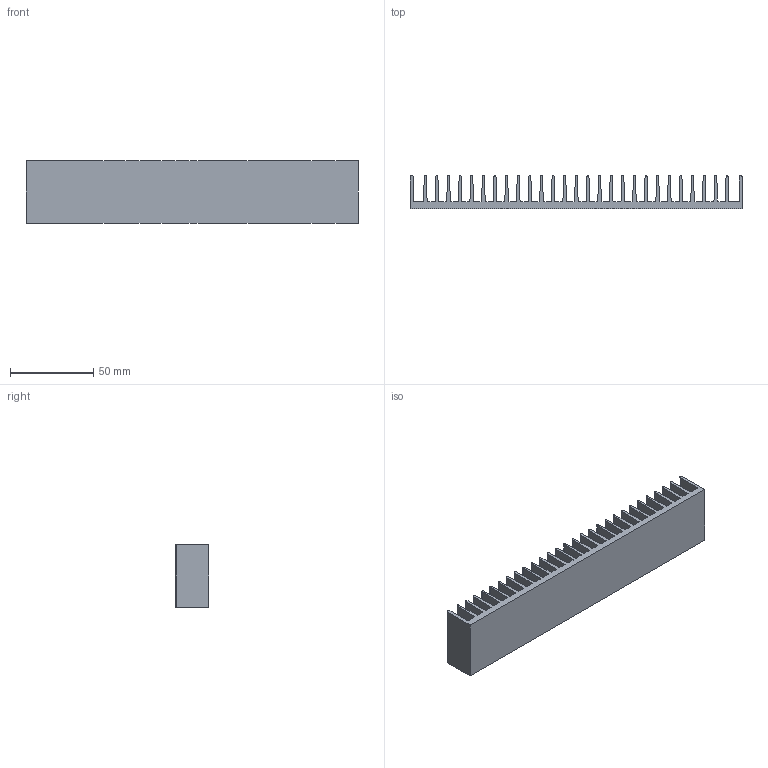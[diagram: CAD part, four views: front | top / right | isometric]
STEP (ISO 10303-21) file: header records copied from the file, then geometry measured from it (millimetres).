
FILE_DESCRIPTION (( 'STEP AP214' ), '1' );
FILE_NAME ('PR103.STEP', '2004-05-03T08:13:41', ( '' ), ( '' ), 'SwSTEP 2.0', 'SolidWorks 2002349', '' );
FILE_SCHEMA (( 'AUTOMOTIVE_DESIGN' ));
Length unit declared in the file: millimetre
Products named in the file (1): PR103
Bounding box: 200 x 20.1 x 37.5 mm (x, y, z)
Volume: 59539.5 mm3; surface area: 51457.2 mm2
Topology: 1 solids, 1 shells, 180 faces, 534 edges, 356 vertices
Faces by surface type: plane 95, cylinder 85
Entity records: 6091 total; most frequent: CARTESIAN_POINT 1071, ORIENTED_EDGE 1068, DIRECTION 1066, EDGE_CURVE 534, LINE 364, VECTOR 364, VERTEX_POINT 356, AXIS2_PLACEMENT_3D 351
